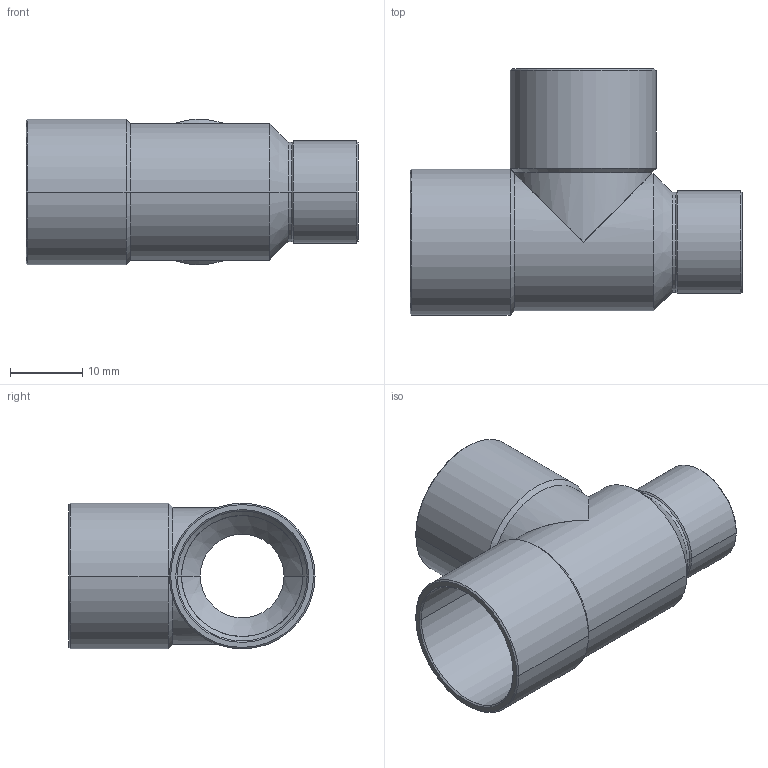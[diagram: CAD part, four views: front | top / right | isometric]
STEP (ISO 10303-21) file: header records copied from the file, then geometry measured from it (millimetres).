
FILE_DESCRIPTION((''),'2;1');
FILE_NAME('P:\Bouwmaten\z-maattekeningen 3D\5000\5130\5130181812.stp','2005-10-26T11:53:28',('Kris'),(''),'Autodesk Inventor 8','Autodesk Inventor 8','');
FILE_SCHEMA(('AUTOMOTIVE_DESIGN { 1 0 10303 214 1 1 1 1 }'));
Length unit declared in the file: millimetre
Products named in the file (1): 5130181812
Bounding box: 46 x 34.1 x 20.2 mm (x, y, z)
Volume: 3586.3 mm3; surface area: 6757 mm2
Topology: 1 solids, 1 shells, 59 faces, 134 edges, 68 vertices
Faces by surface type: cone 28, cylinder 24, bspline 4, plane 3
Entity records: 1997 total; most frequent: CARTESIAN_POINT 668, DIRECTION 308, ORIENTED_EDGE 252, AXIS2_PLACEMENT_3D 128, EDGE_CURVE 126, VERTEX_POINT 68, EDGE_LOOP 62, FACE_OUTER_BOUND 59
